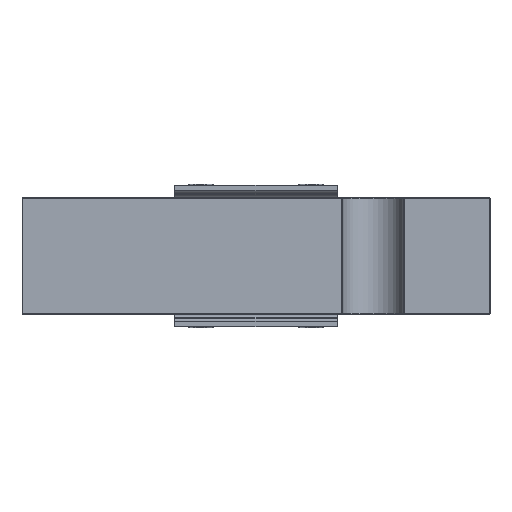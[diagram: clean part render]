
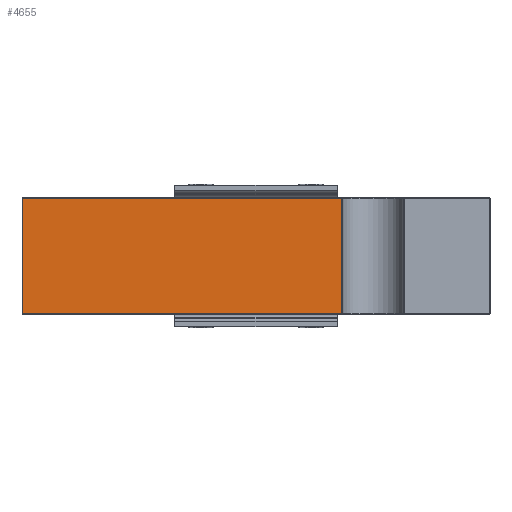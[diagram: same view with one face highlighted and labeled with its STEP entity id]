
A CAD part, left-side view. The second image highlights one B-rep face of the part: STEP entity #4655.
In plain terms, the highlighted planar face has unit normal (-1, 0, 0).
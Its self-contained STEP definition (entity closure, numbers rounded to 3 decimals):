
#528 = DIRECTION ( 'NONE',  ( 0., -1., 0. ) ) ;
#971 = ORIENTED_EDGE ( 'NONE', *, *, #12372, .T. ) ;
#1112 = VERTEX_POINT ( 'NONE', #18084 ) ;
#1623 = CARTESIAN_POINT ( 'NONE',  ( -25.4, 38., -9.4 ) ) ;
#2265 = VECTOR ( 'NONE', #528, 1000. ) ;
#2743 = DIRECTION ( 'NONE',  ( 0., 1., 0. ) ) ;
#3562 = CARTESIAN_POINT ( 'NONE',  ( -25.4, 38.1, 9.4 ) ) ;
#4213 = LINE ( 'NONE', #16859, #2265 ) ;
#4335 = CARTESIAN_POINT ( 'NONE',  ( -25.4, -14., -9.4 ) ) ;
#4655 = ADVANCED_FACE ( 'NONE', ( #11720 ), #18962, .F. ) ;
#5222 = EDGE_CURVE ( 'NONE', #19717, #1112, #12655, .T. ) ;
#6968 = VERTEX_POINT ( 'NONE', #1623 ) ;
#8899 = EDGE_CURVE ( 'NONE', #12276, #19717, #22807, .T. ) ;
#9502 = EDGE_CURVE ( 'NONE', #6968, #12276, #4213, .T. ) ;
#9760 = CARTESIAN_POINT ( 'NONE',  ( -25.4, 38., 9.5 ) ) ;
#9950 = DIRECTION ( 'NONE',  ( 1., 0., 0. ) ) ;
#10210 = VECTOR ( 'NONE', #23226, 1000. ) ;
#10524 = CARTESIAN_POINT ( 'NONE',  ( -25.4, -14., 9.4 ) ) ;
#11720 = FACE_OUTER_BOUND ( 'NONE', #20544, .T. ) ;
#12127 = DIRECTION ( 'NONE',  ( 0., 0., 1. ) ) ;
#12181 = CARTESIAN_POINT ( 'NONE',  ( -25.4, 38.1, 9.5 ) ) ;
#12276 = VERTEX_POINT ( 'NONE', #4335 ) ;
#12372 = EDGE_CURVE ( 'NONE', #1112, #6968, #20437, .T. ) ;
#12655 = LINE ( 'NONE', #3562, #10210 ) ;
#14602 = ORIENTED_EDGE ( 'NONE', *, *, #8899, .T. ) ;
#15210 = ORIENTED_EDGE ( 'NONE', *, *, #9502, .T. ) ;
#15454 = CARTESIAN_POINT ( 'NONE',  ( -25.4, -14., 9.5 ) ) ;
#16859 = CARTESIAN_POINT ( 'NONE',  ( -25.4, 38.1, -9.4 ) ) ;
#16984 = DIRECTION ( 'NONE',  ( 0., 0., -1. ) ) ;
#17053 = VECTOR ( 'NONE', #16984, 1000. ) ;
#18084 = CARTESIAN_POINT ( 'NONE',  ( -25.4, 38., 9.4 ) ) ;
#18962 = PLANE ( 'NONE',  #19309 ) ;
#19309 = AXIS2_PLACEMENT_3D ( 'NONE', #12181, #9950, #2743 ) ;
#19383 = ORIENTED_EDGE ( 'NONE', *, *, #5222, .T. ) ;
#19717 = VERTEX_POINT ( 'NONE', #10524 ) ;
#20437 = LINE ( 'NONE', #9760, #17053 ) ;
#20544 = EDGE_LOOP ( 'NONE', ( #19383, #971, #15210, #14602 ) ) ;
#21547 = VECTOR ( 'NONE', #12127, 1000. ) ;
#22807 = LINE ( 'NONE', #15454, #21547 ) ;
#23226 = DIRECTION ( 'NONE',  ( 0., 1., 0. ) ) ;
